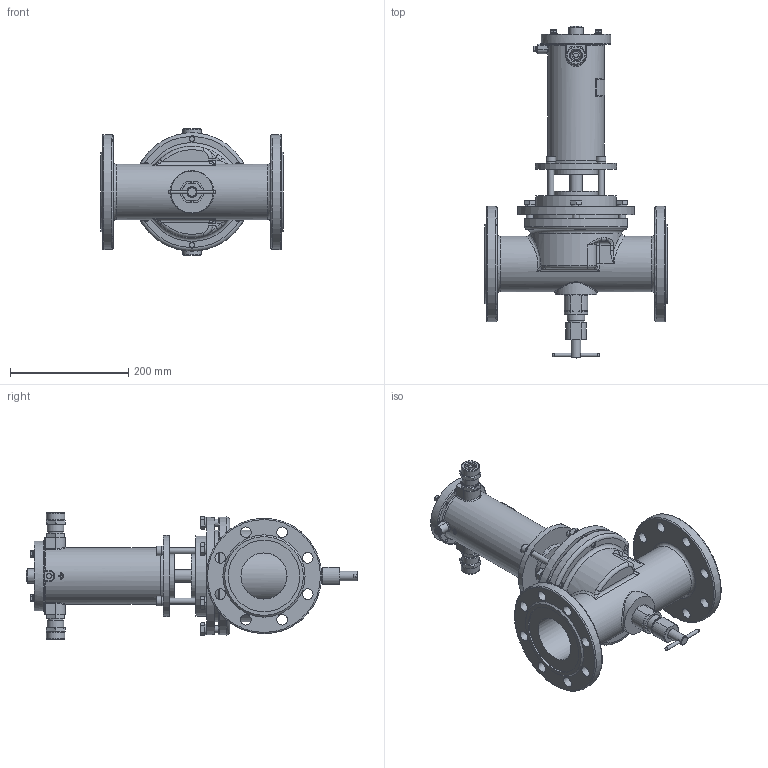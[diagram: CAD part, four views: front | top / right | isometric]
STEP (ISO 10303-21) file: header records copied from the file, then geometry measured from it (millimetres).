
FILE_DESCRIPTION(('STEP AP203'), '1');
FILE_NAME('ÑÅÍÑ-ÏÐ DN80PN25-200Ñ-ÑÂ.stp', '2018-10-09T07:58:47', ('Îðëîâ Å.Â.'), ('ÎÎÎ ÍÏÏ Ñåíñîð'), 'ASCON STEP Converter 1.3', 'Kompas 3D', '');
FILE_SCHEMA(('CONFIG_CONTROL_DESIGN','SUPPORT_RESOURCE_SCHEMA'));
Length unit declared in the file: millimetre
Products named in the file (1): 25
Bounding box: 308 x 561.5 x 214 mm (x, y, z)
Volume: 3490067 mm3; surface area: 794615.2 mm2
Topology: 3 solids, 24 shells, 2149 faces, 5663 edges, 3656 vertices
Faces by surface type: cylinder 1049, plane 816, cone 155, bspline 56, torus 49, extrusion 16, sphere 8
Full cylindrical faces by diameter (mm): 3.5 x2, 4.134 x1, 4.917 x4, 5 x1, 6 x9, 6.5 x4, 8 x8, 8.2 x1, 8.376 x4, 9 x1, 10 x5, 10.106 x6, 11 x5, 12 x10, 13 x8, 16 x6, 17 x2, 18 x17, 18.632 x2, 20 x3, 22 x3, 22.376 x2, 23 x1, 23.5 x2, 24 x3, 24.5 x2, 26 x4, 26.376 x2, 27.8 x1, 28 x3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
Entity records: 85443 total; most frequent: CARTESIAN_POINT 31329, DIRECTION 11652, ORIENTED_EDGE 11264, EDGE_CURVE 5632, AXIS2_PLACEMENT_3D 4495, VERTEX_POINT 3656, VECTOR 2662, LINE 2646
